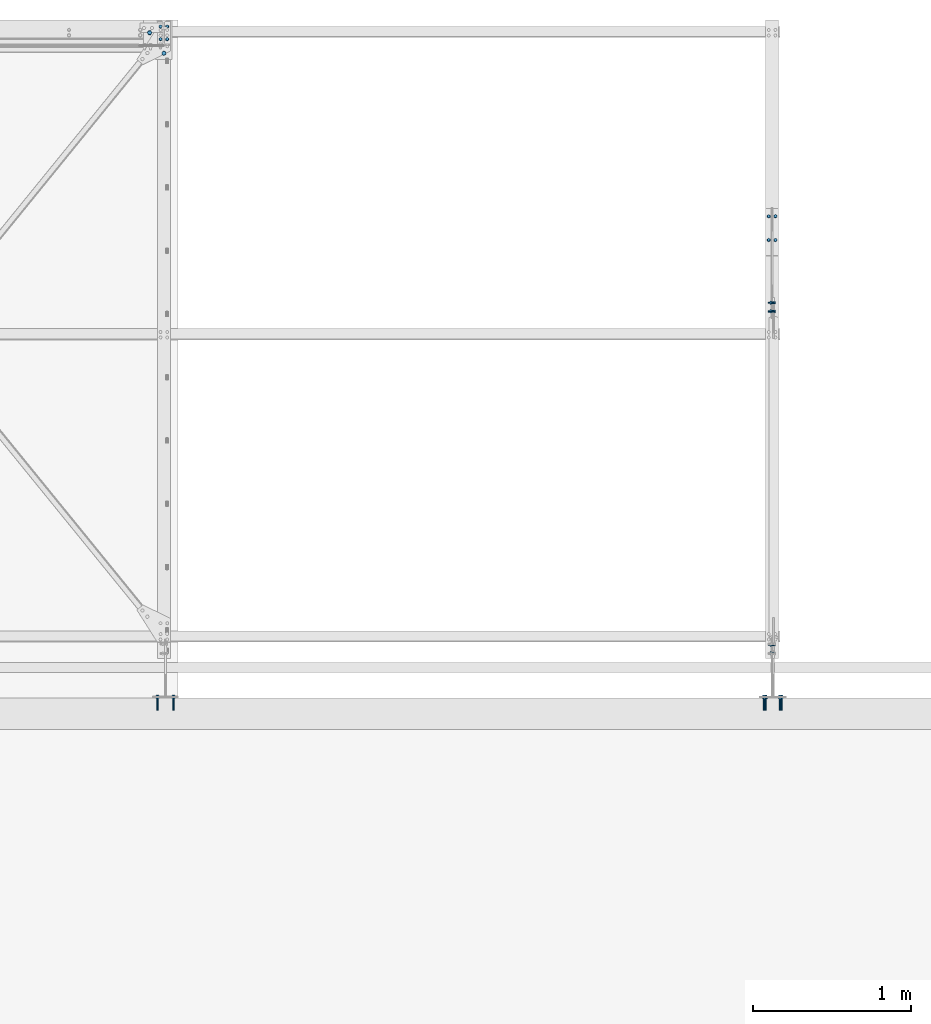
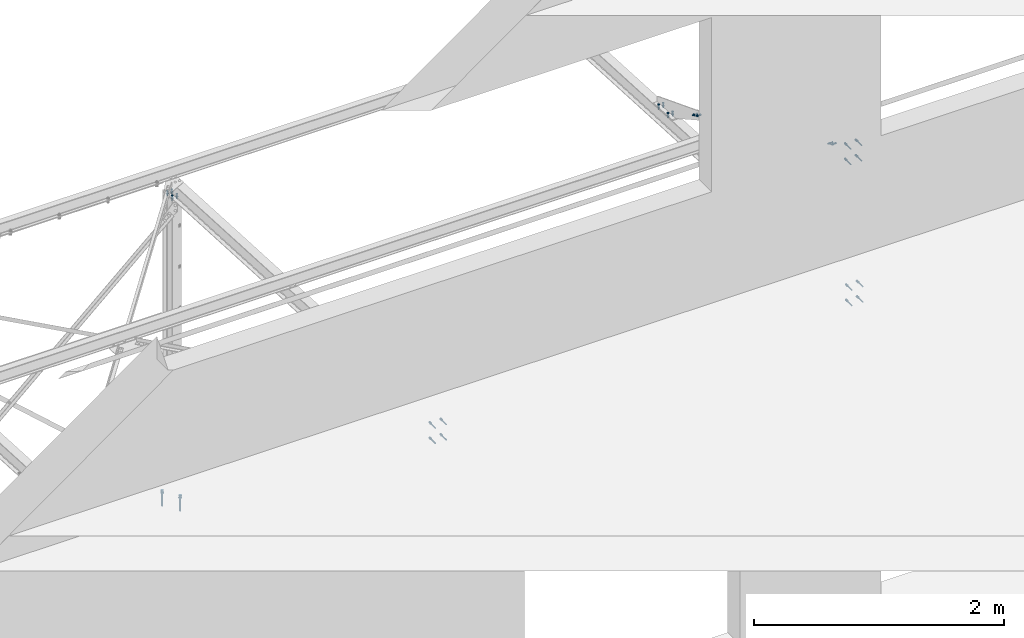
# One storey, part 201 of 362: 9 mechanical fasteners.
"""IFC2X3 building model written with IfcOpenShell, lengths in millimetres."""

from ifc_helpers import new_model, si_unit, frame, origin_with_axes, origin_2d_with_axis, place, context, subcontext, project, spatial, polyline, circle, outline, extrude, source, transform, mapped, material, type_object, element, save


model = new_model("IFC2X3")

# Units and contexts
model_context = context("Model", 3, precision=1e-05, world=origin_with_axes())
body_context = subcontext(model_context, "Body", "Model", "MODEL_VIEW")
ifc_project = project(units=[si_unit("LENGTHUNIT", "METRE", prefix="MILLI"), si_unit("AREAUNIT", "SQUARE_METRE"), si_unit("VOLUMEUNIT", "CUBIC_METRE"), si_unit("MASSUNIT", "GRAM", prefix="KILO"), si_unit("TIMEUNIT", "SECOND"), si_unit("PLANEANGLEUNIT", "RADIAN"), si_unit("SOLIDANGLEUNIT", "STERADIAN"), si_unit("THERMODYNAMICTEMPERATUREUNIT", "DEGREE_CELSIUS"), si_unit("LUMINOUSINTENSITYUNIT", "LUMEN")], contexts=[model_context])

# Site, building, storey
site_placement = place(None, origin_with_axes())
site = spatial("IfcSite", under=ifc_project, at=site_placement, Name="Undefined", CompositionType="ELEMENT")
building_placement = place(site_placement, origin_with_axes())
building = spatial("IfcBuilding", under=site, at=building_placement, Name="Undefined", CompositionType="ELEMENT")
storey_placement = place(building_placement, origin_with_axes())
storey = spatial("IfcBuildingStorey", under=building, at=storey_placement, Name="Undefined", CompositionType="ELEMENT", Elevation=0.0)

# Mechanical fasteners
ifc_material_1 = material(Name="8.8-SB-GALVA")
mechanical_fastener_type = type_object("IfcMechanicalFastenerType", Name="Bolt assembly")
shared_shape_1 = source(origin_with_axes(), body_context, "Body", "SweptSolid", [
    extrude(circle(Radius=7.0, at=origin_2d_with_axis()), frame((0.0, -7.29999968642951, 0.0), z_axis=(0.0, 1.0, 0.0), x_axis=(1.0, 0.0, 0.0)), (0.0, 0.0, 1.0), 7.4),
    extrude(circle(Radius=7.0, at=origin_2d_with_axis()), frame((0.0, -0.100011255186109, 0.0), z_axis=(0.0, 1.0, 0.0), x_axis=(1.0, 0.0, 0.0)), (0.0, 0.0, 1.0), 10.1),
    extrude(outline(polyline([(10.39230484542, 0.0), (5.19615242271, 9.00000000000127), (-5.19615242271, 9.00000000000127), (-10.39230484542, 0.0), (-5.19615242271, -9.00000000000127), (5.19615242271, -9.00000000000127), (10.39230484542, 0.0)])), frame((0.0, -15.3199996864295, 0.0), z_axis=(0.0, 1.0, 0.0), x_axis=(1.0, 0.0, 0.0)), (0.0, 0.0, 1.0), 7.92),
    extrude(circle(Radius=6.0, at=origin_2d_with_axis()), frame((0.0, -7.40002311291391, 0.0), z_axis=(0.0, 1.0, 0.0), x_axis=(1.0, 0.0, 0.0)), (0.0, 0.0, 1.0), 40.0),
    extrude(outline(polyline([(11.5008173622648, 0.0), (5.7504086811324, 9.96000000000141), (-5.7504086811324, 9.96000000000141), (-11.5008173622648, 0.0), (-5.7504086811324, -9.96000000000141), (5.7504086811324, -9.96000000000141), (11.5008173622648, 0.0)])), frame((0.0, 10.0000000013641, 0.0), z_axis=(0.0, 1.0, 0.0), x_axis=(1.0, 0.0, 0.0)), (0.0, 0.0, 1.0), 7.92),
])
mechanical_fastener_1_placement = place(storey_placement, frame((32002.9999703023, 29199.0803220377, 2679.92406383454), z_axis=(-1.0, 0.0, 0.0), x_axis=(-6.99999093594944e-09, 0.998630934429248, -0.0523092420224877)))
element("IfcMechanicalFastener", 1, at=mechanical_fastener_1_placement, inside=storey, type_object=mechanical_fastener_type, material=ifc_material_1, Name="Bolt assembly", NominalDiameter=12.0, NominalLength=40.0, context=body_context, shape_type="MappedRepresentation", body=[
    mapped(shared_shape_1, transform((0.0, 0.0, -21.0))),
    mapped(shared_shape_1, transform((80.0000000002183, -6.73026079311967e-11, -21.0))),
    mapped(shared_shape_1, transform((0.0, 0.0, 21.0))),
    mapped(shared_shape_1, transform((80.0000000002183, -6.73026079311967e-11, 21.0))),
])
ifc_material_2 = material(Name="HILTI-HSA-R")
shared_shape_2 = source(origin_with_axes(), body_context, "Body", "SweptSolid", [
    extrude(circle(Radius=7.0, at=origin_2d_with_axis()), frame((0.0, -9.99994875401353, 0.0), z_axis=(0.0, 1.0, 0.0), x_axis=(1.0, 0.0, 0.0)), (0.0, 0.0, 1.0), 10.1),
    extrude(outline(polyline([(10.39230484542, 0.0), (5.19615242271, 9.00000000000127), (-5.19615242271, 9.00000000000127), (-10.39230484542, 0.0), (-5.19615242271, -9.00000000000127), (5.19615242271, -9.00000000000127), (10.39230484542, 0.0)])), frame((0.0, -17.9199487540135, 0.0), z_axis=(0.0, 1.0, 0.0), x_axis=(1.0, 0.0, 0.0)), (0.0, 0.0, 1.0), 7.92),
    extrude(circle(Radius=6.0, at=origin_2d_with_axis()), frame((0.0, -9.99994875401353, 0.0), z_axis=(0.0, 1.0, 0.0), x_axis=(1.0, 0.0, 0.0)), (0.0, 0.0, 1.0), 89.2),
    extrude(outline(polyline([(11.5008173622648, 0.0), (5.7504086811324, 9.96000000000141), (-5.7504086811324, 9.96000000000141), (-11.5008173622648, 0.0), (-5.7504086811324, -9.96000000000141), (5.7504086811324, -9.96000000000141), (11.5008173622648, 0.0)])), frame((0.0, 6.26397177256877e-05, 0.0), z_axis=(0.0, 1.0, 0.0), x_axis=(1.0, 0.0, 0.0)), (0.0, 0.0, 1.0), 7.92),
])
for number, where, z_axis, x_axis, name in (
    (2, (32012.9999703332, 25040.0000000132, 3000.00032537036), (-1.0, 0.0, 0.0), (0.0, 0.0, -1.0), "Bolt assembly"),
    (3, (35852.9999703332, 25039.9999998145, 3000.00032537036), (-1.0, 0.0, 0.0), (0.0, 0.0, -1.0), "Bolt assembly"),
    (4, (35842.9999703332, 25039.9999997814, 4380.00032537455), (-1.0, 0.0, 0.0), (0.0, 0.0, -1.0), "Bolt assembly"),
):
    element("IfcMechanicalFastener", number, at=place(storey_placement, frame(where, z_axis=z_axis, x_axis=x_axis)), inside=storey, type_object=mechanical_fastener_type, material=ifc_material_2, Name=name, NominalDiameter=12.0, NominalLength=89.1999969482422, context=body_context, shape_type="MappedRepresentation", body=[
        mapped(shared_shape_2, transform((0.0, 0.0, -50.0))),
        mapped(shared_shape_2, transform((150.0, 0.0, -50.0))),
        mapped(shared_shape_2, transform((0.0, 0.0, 50.0))),
        mapped(shared_shape_2, transform((150.0, 0.0, 50.0))),
    ])
shared_shape_3 = source(origin_with_axes(), body_context, "Body", "SweptSolid", [
    extrude(circle(Radius=7.0, at=origin_2d_with_axis()), frame((0.0, -0.100011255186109, 0.0), z_axis=(0.0, 1.0, 0.0), x_axis=(1.0, 0.0, 0.0)), (0.0, 0.0, 1.0), 7.5),
    extrude(circle(Radius=7.0, at=origin_2d_with_axis()), frame((0.0, -9.9, 0.0), z_axis=(0.0, 1.0, 0.0), x_axis=(1.0, 0.0, 0.0)), (0.0, 0.0, 1.0), 10.0),
    extrude(outline(polyline([(10.39230484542, 0.0), (5.19615242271, 9.00000000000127), (-5.19615242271, 9.00000000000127), (-10.39230484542, 0.0), (-5.19615242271, -9.00000000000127), (5.19615242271, -9.00000000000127), (10.39230484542, 0.0)])), frame((0.0, -17.92, 0.0), z_axis=(0.0, 1.0, 0.0), x_axis=(1.0, 0.0, 0.0)), (0.0, 0.0, 1.0), 7.92),
    extrude(circle(Radius=6.0, at=origin_2d_with_axis()), frame((0.0, -10.0000010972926, 0.0), z_axis=(0.0, 1.0, 0.0), x_axis=(1.0, 0.0, 0.0)), (0.0, 0.0, 1.0), 40.0),
    extrude(outline(polyline([(11.5008173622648, 0.0), (5.7504086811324, 9.96000000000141), (-5.7504086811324, 9.96000000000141), (-11.5008173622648, 0.0), (-5.7504086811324, -9.96000000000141), (5.7504086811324, -9.96000000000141), (11.5008173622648, 0.0)])), frame((0.0, 7.40000130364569, 0.0), z_axis=(0.0, 1.0, 0.0), x_axis=(1.0, 0.0, 0.0)), (0.0, 0.0, 1.0), 7.92),
])
mechanical_fastener_2_placement = place(storey_placement, frame((35842.9999694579, 27931.0560612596, 2906.56373229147), z_axis=(-1.0, 0.0, 0.0), x_axis=(-6.99999093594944e-09, 0.998630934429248, -0.0523092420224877)))
element("IfcMechanicalFastener", 5, at=mechanical_fastener_2_placement, inside=storey, type_object=mechanical_fastener_type, material=ifc_material_1, Name="Bolt assembly", NominalDiameter=12.0, NominalLength=40.0, context=body_context, shape_type="MappedRepresentation", body=[
    mapped(shared_shape_3, transform((0.0, 0.0, -21.0))),
    mapped(shared_shape_3, transform((150.000000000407, -1.25510268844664e-10, -21.0))),
    mapped(shared_shape_3, transform((0.0, 0.0, 21.0))),
    mapped(shared_shape_3, transform((150.000000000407, -1.25510268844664e-10, 21.0))),
])
shared_shape_4 = source(origin_with_axes(), body_context, "Body", "SweptSolid", [
    extrude(circle(Radius=7.0, at=origin_2d_with_axis()), frame((0.0, -5.1000000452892, 0.0), z_axis=(0.0, 1.0, 0.0), x_axis=(1.0, 0.0, 0.0)), (0.0, 0.0, 1.0), 10.1),
    extrude(circle(Radius=7.0, at=origin_2d_with_axis()), frame((0.0, -14.899999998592, 0.0), z_axis=(0.0, 1.0, 0.0), x_axis=(1.0, 0.0, 0.0)), (0.0, 0.0, 1.0), 10.0),
    extrude(outline(polyline([(10.39230484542, 0.0), (5.19615242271, 9.00000000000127), (-5.19615242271, 9.00000000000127), (-10.39230484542, 0.0), (-5.19615242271, -9.00000000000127), (5.19615242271, -9.00000000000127), (10.39230484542, 0.0)])), frame((0.0, -22.919999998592, 0.0), z_axis=(0.0, 1.0, 0.0), x_axis=(1.0, 0.0, 0.0)), (0.0, 0.0, 1.0), 7.92),
    extrude(circle(Radius=6.0, at=origin_2d_with_axis()), frame((0.0, -14.999999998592, 0.0), z_axis=(0.0, 1.0, 0.0), x_axis=(1.0, 0.0, 0.0)), (0.0, 0.0, 1.0), 40.0),
    extrude(outline(polyline([(11.5008173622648, 0.0), (5.7504086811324, 9.96000000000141), (-5.7504086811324, 9.96000000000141), (-11.5008173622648, 0.0), (-5.7504086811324, -9.96000000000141), (5.7504086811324, -9.96000000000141), (11.5008173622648, 0.0)])), frame((0.0, 5.0, 0.0), z_axis=(0.0, 1.0, 0.0), x_axis=(1.0, 0.0, 0.0)), (0.0, 0.0, 1.0), 7.92),
])
for number, where, z_axis, x_axis, name in (
    (6, (35842.9999699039, 27534.9082722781, 3138.26147697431), (0.0, -0.431020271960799, -0.902342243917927), (0.0, -0.902342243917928, 0.431020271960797), "Bolt assembly"),
    (7, (35842.9999704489, 25321.5814429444, 4195.49750725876), (0.0, 0.431020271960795, 0.902342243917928), (0.0, 0.902342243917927, -0.431020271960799), "Bolt assembly"),
):
    element("IfcMechanicalFastener", number, at=place(storey_placement, frame(where, z_axis=z_axis, x_axis=x_axis)), inside=storey, type_object=mechanical_fastener_type, material=ifc_material_1, Name=name, NominalDiameter=12.0, NominalLength=40.0, context=body_context, shape_type="MappedRepresentation", body=[
        mapped(shared_shape_4, transform((0.0, 0.0, 0.0))),
        mapped(shared_shape_4, transform((60.0, 0.0, 0.0))),
    ])
ifc_material_3 = material(Name="HILTI-HST-R")
shared_shape_5 = source(origin_with_axes(), body_context, "Body", "SweptSolid", [
    extrude(circle(Radius=9.0, at=origin_2d_with_axis()), frame((0.0, -10.0000010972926, 0.0), z_axis=(0.0, 1.0, 0.0), x_axis=(1.0, 0.0, 0.0)), (0.0, 0.0, 1.0), 10.1),
    extrude(outline(polyline([(13.85640646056, 0.0), (6.92820323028, 12.0000000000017), (-6.92820323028, 12.0000000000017), (-13.85640646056, 0.0), (-6.92820323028, -12.0000000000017), (6.92820323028, -12.0000000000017), (13.85640646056, 0.0)])), frame((0.0, -20.5600000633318, 0.0), z_axis=(0.0, 1.0, 0.0), x_axis=(1.0, 0.0, 0.0)), (0.0, 0.0, 1.0), 10.56),
    extrude(circle(Radius=8.0, at=origin_2d_with_axis()), frame((0.0, -10.0000010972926, 0.0), z_axis=(0.0, 1.0, 0.0), x_axis=(1.0, 0.0, 0.0)), (0.0, 0.0, 1.0), 146.2),
    extrude(outline(polyline([(15.3344231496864, 0.0), (7.6672115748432, 13.2800000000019), (-7.6672115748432, 13.2800000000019), (-15.3344231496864, 0.0), (-7.6672115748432, -13.2800000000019), (7.6672115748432, -13.2800000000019), (15.3344231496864, 0.0)])), frame((0.0, 0.0, 0.0), z_axis=(0.0, 1.0, 0.0), x_axis=(1.0, 0.0, 0.0)), (0.0, 0.0, 1.0), 10.56),
])
for number, where, z_axis, x_axis, name in (
    (8, (32002.9950232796, 29110.000066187, -200.0), (-1.0, 0.0, 0.0), (0.0, 1.0, 0.0), "Bolt assembly"),
    (9, (31912.9950556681, 29240.0000662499, -200.0), (0.0, 1.0, 0.0), (1.0, 0.0, 0.0), "Bolt assembly"),
):
    element("IfcMechanicalFastener", number, at=place(storey_placement, frame(where, z_axis=z_axis, x_axis=x_axis)), inside=storey, type_object=mechanical_fastener_type, material=ifc_material_3, Name=name, NominalDiameter=16.0, NominalLength=146.199996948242, context=body_context, shape_type="MappedRepresentation", body=[
        mapped(shared_shape_5, transform((0.0, 0.0, 0.0))),
    ])

save(model, "model.ifc")
